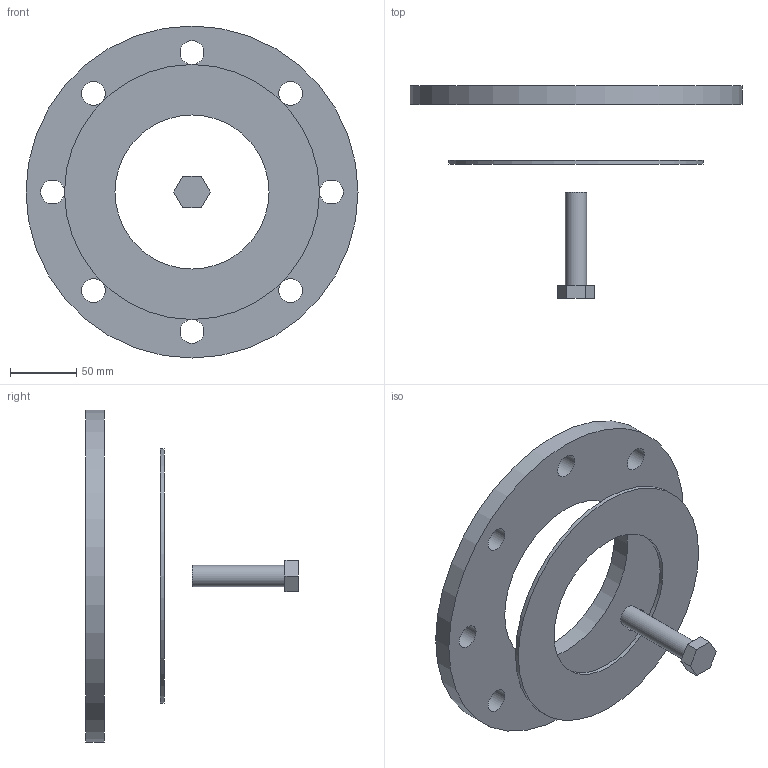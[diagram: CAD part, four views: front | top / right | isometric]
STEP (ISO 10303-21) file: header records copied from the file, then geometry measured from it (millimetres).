
FILE_DESCRIPTION( ( 'STEP AP214' ), '1' );
FILE_NAME( 'C:/Users/ilukic/Documents/ex/gebaudeentwasserung/pe/Geberit PE flange set/368746.stp', '2020-03-26T18:42:21', ( '' ), ( '' ), ' ', 'PARTsolutions', ' ' );
FILE_SCHEMA( ( 'AUTOMOTIVE_DESIGN { 1 0 10303 214 1 1 1 1 }' ) );
Length unit declared in the file: millimetre
Products named in the file (4): 368746; _368746_flange1; _368746_flange2; _368746_bolt
Assembly tree (3 placements, depth 2):
  368746
    _368746_flange1
    _368746_flange2
    _368746_bolt
Bounding box: 250 x 160 x 250 mm (x, y, z)
Volume: 544244.3 mm3; surface area: 135257.2 mm2
Topology: 3 solids, 3 shells, 26 faces, 57 edges, 38 vertices
Faces by surface type: plane 13, cylinder 13
Full cylindrical faces by diameter (mm): 16 x1, 18 x8, 116 x1, 131 x1, 192 x1, 250 x1
Entity records: 980 total; most frequent: DIRECTION 130, CARTESIAN_POINT 112, ORIENTED_EDGE 88, EDGE_LOOP 60, AXIS2_PLACEMENT_3D 56, EDGE_CURVE 44, FACE_OUTER_BOUND 39, VERTEX_POINT 38
